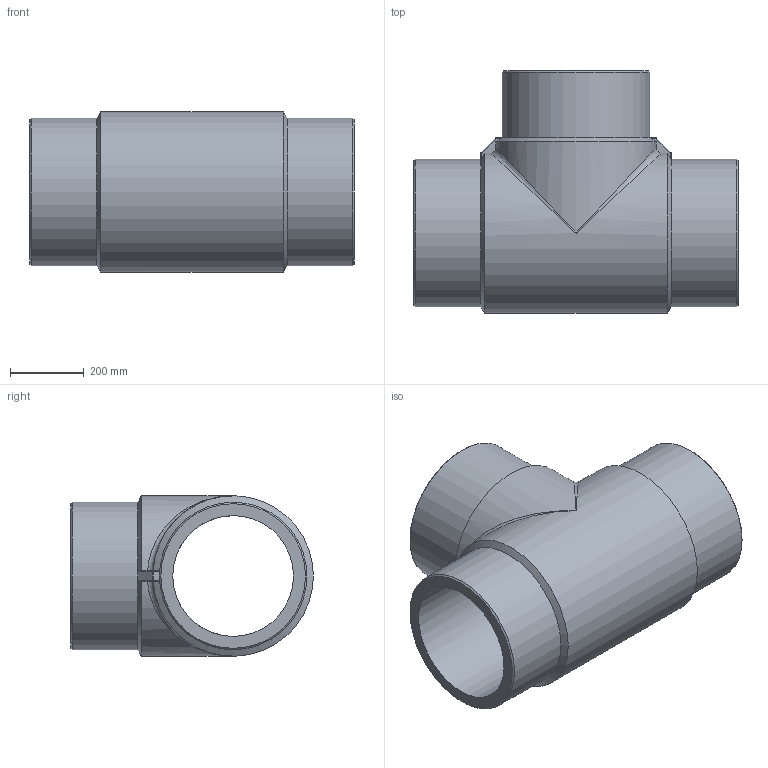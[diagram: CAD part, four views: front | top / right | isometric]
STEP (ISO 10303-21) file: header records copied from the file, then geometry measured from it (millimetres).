
FILE_DESCRIPTION(/* description */ ('Unknown'),/* implementation_level */ '2;1');
FILE_NAME(/* name */ 'TP400G',/* time_stamp */ '2022-02-08T10:16:49+01:00',/* author */ ('Unknown'),/* organization */ ('Unknown'),/* preprocessor_version */ 'ST-DEVELOPER v18.1',/* originating_system */ 'Solid Edge',/* authorisation */ 'Unknown');
FILE_SCHEMA (('AUTOMOTIVE_DESIGN {1 0 10303 214 3 1 1}'));
Length unit declared in the file: millimetre
Products named in the file (1): TP400G
Bounding box: 880 x 658 x 435 mm (x, y, z)
Volume: 56496948.9 mm3; surface area: 2662916.1 mm2
Topology: 1 solids, 1 shells, 64 faces, 159 edges, 84 vertices
Faces by surface type: cylinder 24, plane 21, sphere 8, cone 7, bspline 4
Full cylindrical faces by diameter (mm): 327.4 x2, 400 x3
Entity records: 1920 total; most frequent: CARTESIAN_POINT 533, DIRECTION 288, ORIENTED_EDGE 270, EDGE_CURVE 135, AXIS2_PLACEMENT_3D 120, VERTEX_POINT 81, EDGE_LOOP 76, FACE_BOUND 76
